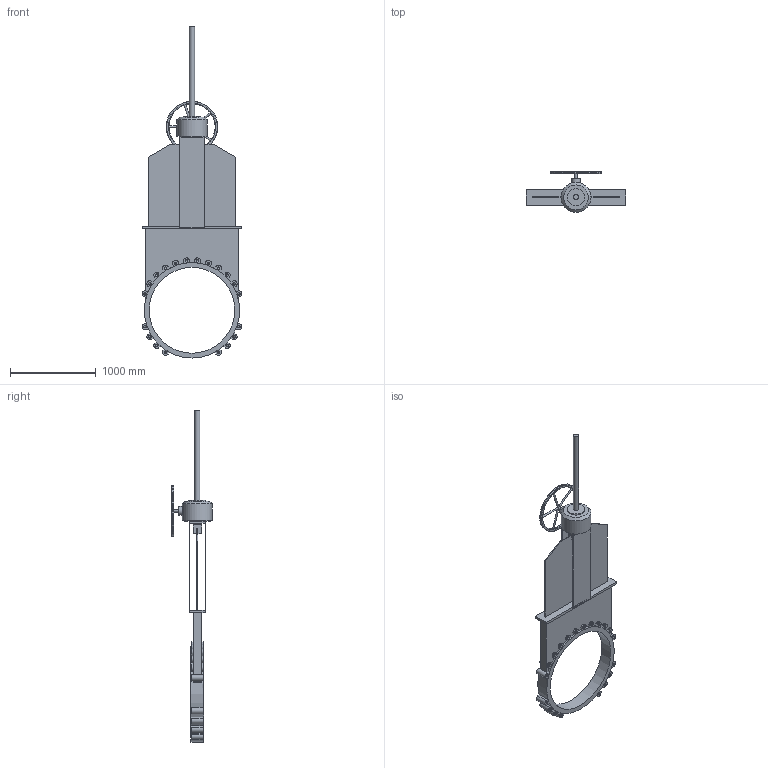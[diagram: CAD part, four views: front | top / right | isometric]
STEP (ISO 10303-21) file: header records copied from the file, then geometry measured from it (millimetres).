
FILE_DESCRIPTION(('STEP AP203'), '1');
FILE_NAME('Çàäâèæêà øèáåðíàÿ K21GV DN1000 ðåäóêòîð+âûäâèæíîé øïèíäåëü', '', ('UNSPECIFIED'), ('UNSPECIFIED'), 'ASCON STEP Converter 1.6', 'ASCON Math Kernel', '');
FILE_SCHEMA(('CONFIG_CONTROL_DESIGN'));
Length unit declared in the file: millimetre
Bounding box: 1164.9 x 475 x 3871 mm (x, y, z)
Volume: 135566144.4 mm3; surface area: 7242958.2 mm2
Topology: 1 solids, 1 shells, 304 faces, 816 edges, 519 vertices
Faces by surface type: plane 160, cylinder 95, cone 41, torus 8
Full cylindrical faces by diameter (mm): 20 x5, 29.211 x40, 30 x1, 60 x2, 100 x1, 200 x1, 300 x1, 350 x1, 600 x1, 1000 x1, 1112 x1
Entity records: 13330 total; most frequent: CARTESIAN_POINT 3787, DIRECTION 1502, ORIENTED_EDGE 1352, EDGE_CURVE 676, AXIS2_PLACEMENT_3D 568, VERTEX_POINT 479, EDGE_LOOP 425, LINE 366
